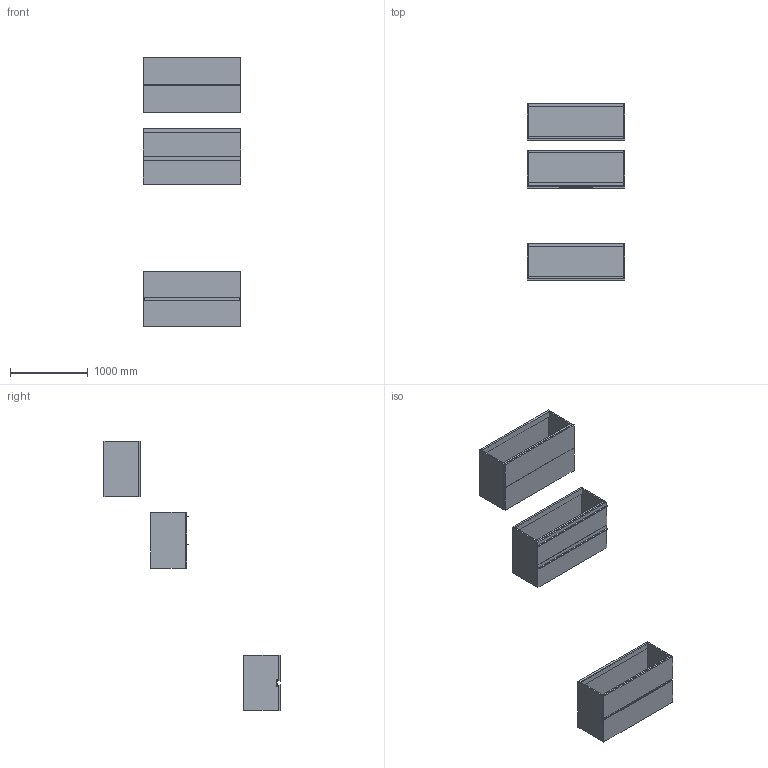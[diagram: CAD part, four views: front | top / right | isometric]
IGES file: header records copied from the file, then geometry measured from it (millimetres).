
Start section: Data from Parasolid IGES Translator 19.0.9, Copyright(c) 2006 Siemens PL M Software. All Rights Reserved.
Global section: file name: noorth-SI-H 72 D 47 W 126_8610.igs; native system: By Siemens PLM Incorporated; preprocessor: XPlus GENERIC/IGES 19.0.9; author: Noname; organization: Noname; date: 20200601.120807; units: metre
Bounding box: 1260 x 2270 x 3480.01 mm (x, y, z)
Volume: 126490929.2 mm3; surface area: 19964084.8 mm2
Topology: 27 solids, 27 shells, 266 faces, 580 edges, 348 vertices
Faces by surface type: plane 182, extrusion 36, bspline 32, cylinder 16
